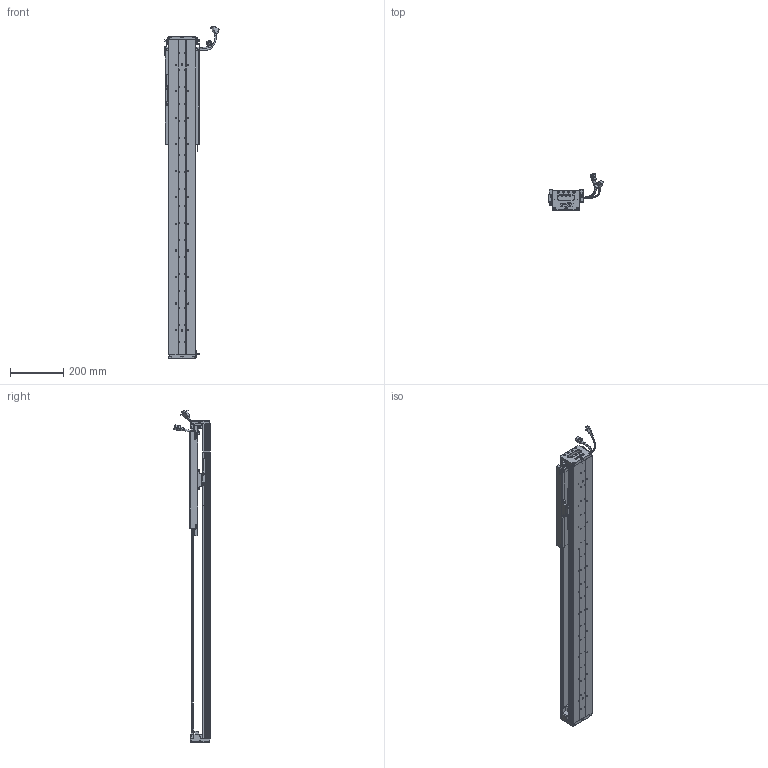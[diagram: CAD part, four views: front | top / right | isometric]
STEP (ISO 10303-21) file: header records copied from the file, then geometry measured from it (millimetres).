
FILE_DESCRIPTION (( 'STEP AP203' ), '1' );
FILE_NAME ('Z5-RY100D-1-L500-B-K.SLDASM_0750.step', '2021-05-17T03:32:42', ( '盈信电脑' ), ( '东莞市道滘镇水果街19号' ), 'SwSTEP 2.0', 'SolidWorks 2016', '' );
FILE_SCHEMA (( 'CONFIG_CONTROL_DESIGN' ));
Length unit declared in the file: millimetre
Products named in the file (36): SEAL-Part-1; 140蚥薯蝶輸; COVER; HARNESS-Part-1; 覜茼ん672; Z5-RY100-L500詩湍90mm遵_0750; SCREW-M1.6; HARNESS-Part-2; 100-Z-臏賑輸盄裔(21遴); SCALE-Part-1; SCREW-M1.6-2; Z-100詩湍傷裔啣; Z-RY100D覜茼んえ; SEAL; SCREW-M1.6-1; SCALE-Part-2; PBU_SHEET; 榋妏寠巭燃_暯_M2_2; SCREW-M1.7; Z-RY100D詩湍奻揤裔; PSLH080_PSLF2; Z5-RY100D-1-L500-B-K.SLDASM_0750; Z-RY100D詩湍狟揤裔; LABEL; SHIELDPLATE; 140雄赽晤鎢ん堤盄; SCREW-M1.7-1; HARNESS; 080黍杅芛假蚾釱21遴; SCREW-M1.6-3; LABEL-Part-1; HOLDER0; Z5-RY100铝滑块（21款）; SCALE; Z5-RY100D-500-倰第菁釱_0750; COVER-Part-1
Assembly tree (43 placements, depth 4):
  Z5-RY100D-1-L500-B-K.SLDASM_0750
    Z5-RY100D-500-倰第菁釱_0750
    Z5-RY100铝滑块（21款）
    PSLH080_PSLF2
      SCALE
        SCALE-Part-1
        SCALE-Part-2
      HARNESS
        HARNESS-Part-1
        HARNESS-Part-2
      LABEL
        LABEL-Part-1
      COVER
        COVER-Part-1
      SEAL
        SEAL-Part-1
      榋妏寠巭燃_暯_M2_2
      SHIELDPLATE
      SCREW-M1.7
      SCREW-M1.7-1
      PBU_SHEET
      SCREW-M1.6
      SCREW-M1.6-1
      SCREW-M1.6-2
      SCREW-M1.6-3
      HOLDER0
    080黍杅芛假蚾釱21遴
    Z-100詩湍傷裔啣  x2
    140蚥薯蝶輸  x2
    覜茼ん672  x3
    Z-RY100D覜茼んえ  x3
    100-Z-臏賑輸盄裔(21遴)
    140雄赽晤鎢ん堤盄
    Z5-RY100-L500詩湍90mm遵_0750
    Z-RY100D詩湍狟揤裔  x2
    Z-RY100D詩湍奻揤裔  x2
Bounding box: 205.84 x 136.11 x 1250.43 mm (x, y, z)
Volume: 2829883 mm3; surface area: 1050327.3 mm2
Topology: 38 solids, 38 shells, 2619 faces, 6889 edges, 4360 vertices
Faces by surface type: cylinder 1146, plane 1125, cone 226, torus 69, bspline 53
Entity records: 71479 total; most frequent: CARTESIAN_POINT 15039, DIRECTION 11343, ORIENTED_EDGE 10658, EDGE_CURVE 5329, AXIS2_PLACEMENT_3D 4180, VERTEX_POINT 3428, LINE 2983, VECTOR 2983
